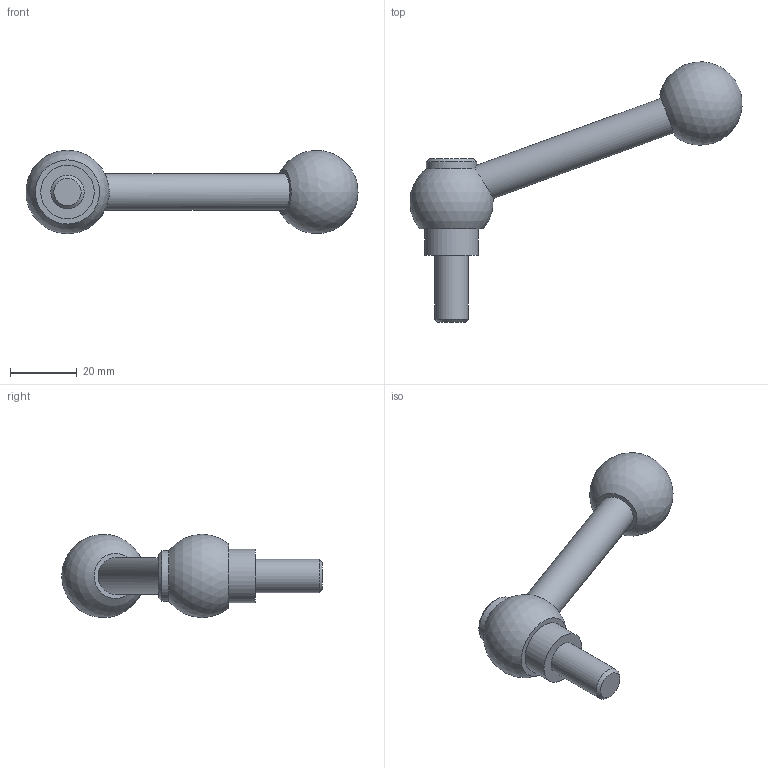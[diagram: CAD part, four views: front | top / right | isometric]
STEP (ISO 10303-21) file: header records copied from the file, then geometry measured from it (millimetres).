
FILE_DESCRIPTION( ( 'STEP AP203' ), '1' );
FILE_NAME( 'C:/Temp/Ganter_Step_05_03_2020/data/2_1/gn_6337_3/gn_6337_3_ms/gn_6337_3_ms_n/Adjustable clamping lever with bolt GN 6337.3-25-M10-20-N.stp', '2020-03-05T11:41:18', ( 'License CC BY-ND 4.0' ), ( 'CADENAS' ), ' ', 'PARTsolutions', ' ' );
FILE_SCHEMA( ( 'CONFIG_CONTROL_DESIGN' ) );
Length unit declared in the file: millimetre
Products named in the file (1): _Adjustable clamping lever with bolt GN 6337.3-25-M10-20-N
Bounding box: 99.38 x 77.98 x 25 mm (x, y, z)
Volume: 24465.1 mm3; surface area: 6781.5 mm2
Topology: 1 solids, 1 shells, 13 faces, 27 edges, 18 vertices
Faces by surface type: plane 5, cylinder 4, cone 2, sphere 2
Full cylindrical faces by diameter (mm): 10 x1, 11 x1, 15 x1, 16 x1
Entity records: 374 total; most frequent: CARTESIAN_POINT 112, DIRECTION 50, ORIENTED_EDGE 26, AXIS2_PLACEMENT_3D 25, EDGE_LOOP 23, FACE_OUTER_BOUND 18, ADVANCED_FACE 13, VERTEX_POINT 13
